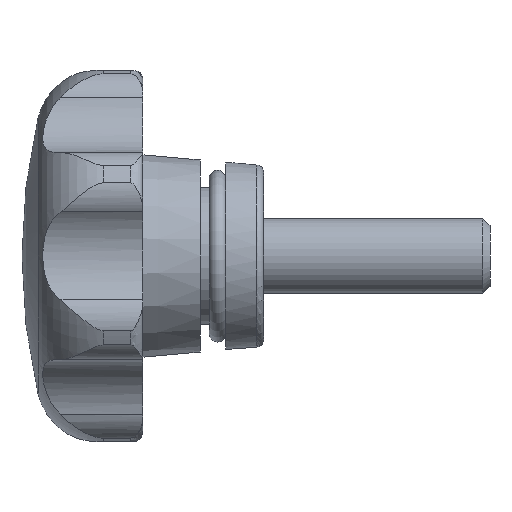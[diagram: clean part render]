
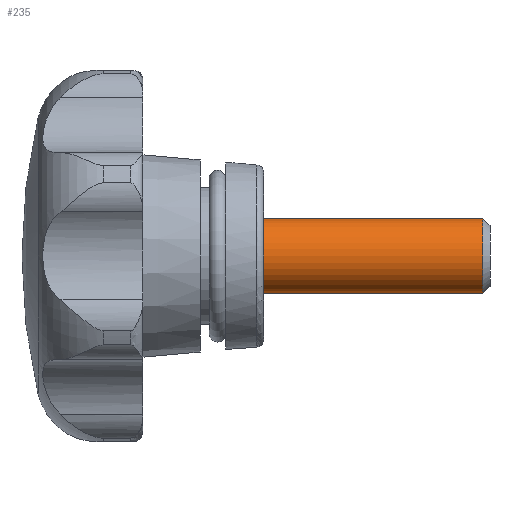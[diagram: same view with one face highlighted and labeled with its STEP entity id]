
A CAD part, left-side view. The second image highlights one B-rep face of the part: STEP entity #235.
In plain terms, the highlighted cylindrical face has radius 2.5 mm (diameter 5 mm), a full revolution.
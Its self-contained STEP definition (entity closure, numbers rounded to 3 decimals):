
#235 = ADVANCED_FACE( '', ( #466, #467 ), #468, .T. );
#466 = FACE_OUTER_BOUND( '', #798, .T. );
#467 = FACE_OUTER_BOUND( '', #799, .T. );
#468 = CYLINDRICAL_SURFACE( '', #800, 2.5 );
#798 = EDGE_LOOP( '', ( #1467 ) );
#799 = EDGE_LOOP( '', ( #1468 ) );
#800 = AXIS2_PLACEMENT_3D( '', #1469, #1470, #1471 );
#1467 = ORIENTED_EDGE( '', *, *, #2224, .F. );
#1468 = ORIENTED_EDGE( '', *, *, #2210, .T. );
#1469 = CARTESIAN_POINT( '', ( 0., -15., 0. ) );
#1470 = DIRECTION( '', ( 0., 1., 0. ) );
#1471 = DIRECTION( '', ( 0., 0., -1. ) );
#2210 = EDGE_CURVE( '', #2674, #2674, #2675, .T. );
#2224 = EDGE_CURVE( '', #2696, #2696, #2697, .T. );
#2674 = VERTEX_POINT( '', #4009 );
#2675 = CIRCLE( '', #4010, 2.5 );
#2696 = VERTEX_POINT( '', #4033 );
#2697 = CIRCLE( '', #4034, 2.5 );
#4009 = CARTESIAN_POINT( '', ( 0., 0., -2.5 ) );
#4010 = AXIS2_PLACEMENT_3D( '', #4639, #4640, #4641 );
#4033 = CARTESIAN_POINT( '', ( 0., -14.51, -2.5 ) );
#4034 = AXIS2_PLACEMENT_3D( '', #4674, #4675, #4676 );
#4639 = CARTESIAN_POINT( '', ( 0., 0., 0. ) );
#4640 = DIRECTION( '', ( 0., -1., 0. ) );
#4641 = DIRECTION( '', ( 0., 0., -1. ) );
#4674 = CARTESIAN_POINT( '', ( 0., -14.51, 0. ) );
#4675 = DIRECTION( '', ( 0., -1., 0. ) );
#4676 = DIRECTION( '', ( 0., 0., -1. ) );
